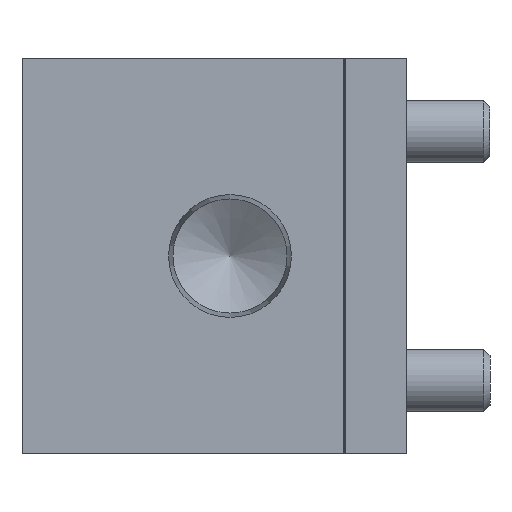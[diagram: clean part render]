
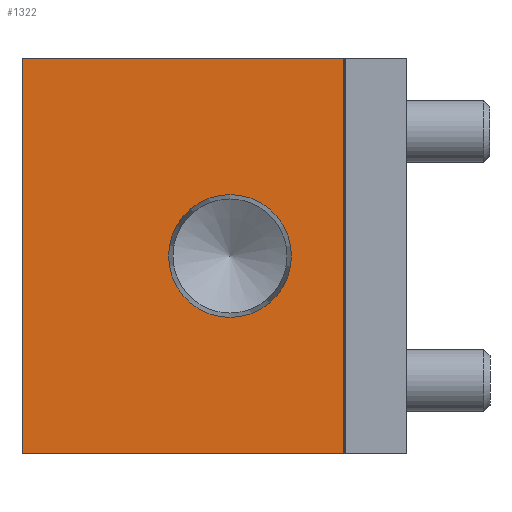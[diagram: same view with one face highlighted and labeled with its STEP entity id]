
A CAD part, left-side view. The second image highlights one B-rep face of the part: STEP entity #1322.
In plain terms, the highlighted planar face has unit normal (-1, 0, 0).
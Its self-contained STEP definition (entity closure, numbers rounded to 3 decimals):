
#1322 = ADVANCED_FACE( '', ( #2889, #2890 ), #2891, .F. );
#2889 = FACE_BOUND( '', #4786, .T. );
#2890 = FACE_OUTER_BOUND( '', #4787, .T. );
#2891 = PLANE( '', #4788 );
#4786 = EDGE_LOOP( '', ( #7861 ) );
#4787 = EDGE_LOOP( '', ( #7862, #7863, #7864, #7865 ) );
#4788 = AXIS2_PLACEMENT_3D( '', #7866, #7867, #7868 );
#7861 = ORIENTED_EDGE( '', *, *, #10039, .T. );
#7862 = ORIENTED_EDGE( '', *, *, #10657, .T. );
#7863 = ORIENTED_EDGE( '', *, *, #10984, .F. );
#7864 = ORIENTED_EDGE( '', *, *, #10590, .F. );
#7865 = ORIENTED_EDGE( '', *, *, #10985, .T. );
#7866 = CARTESIAN_POINT( '', ( 0., 37., 19. ) );
#7867 = DIRECTION( '', ( 1., 0., 0. ) );
#7868 = DIRECTION( '', ( 0., 0., -1. ) );
#10039 = EDGE_CURVE( '', #11698, #11698, #11699, .T. );
#10590 = EDGE_CURVE( '', #12588, #12589, #12590, .T. );
#10657 = EDGE_CURVE( '', #12690, #11595, #12691, .T. );
#10984 = EDGE_CURVE( '', #12589, #11595, #13145, .T. );
#10985 = EDGE_CURVE( '', #12588, #12690, #13146, .T. );
#11595 = VERTEX_POINT( '', #13850 );
#11698 = VERTEX_POINT( '', #13988 );
#11699 = CIRCLE( '', #13989, 5.91 );
#12588 = VERTEX_POINT( '', #15136 );
#12589 = VERTEX_POINT( '', #15137 );
#12590 = LINE( '', #15138, #15139 );
#12690 = VERTEX_POINT( '', #15272 );
#12691 = LINE( '', #15273, #15274 );
#13145 = LINE( '', #15886, #15887 );
#13146 = LINE( '', #15888, #15889 );
#13850 = CARTESIAN_POINT( '', ( 0., 6.1, -19. ) );
#13988 = CARTESIAN_POINT( '', ( 0., 17., -5.91 ) );
#13989 = AXIS2_PLACEMENT_3D( '', #16786, #16787, #16788 );
#15136 = CARTESIAN_POINT( '', ( 0., 37., 19. ) );
#15137 = CARTESIAN_POINT( '', ( 0., 6.1, 19. ) );
#15138 = CARTESIAN_POINT( '', ( 0., 37., 19. ) );
#15139 = VECTOR( '', #17479, 1000. );
#15272 = CARTESIAN_POINT( '', ( 0., 37., -19. ) );
#15273 = CARTESIAN_POINT( '', ( 0., 37., -19. ) );
#15274 = VECTOR( '', #17549, 1000. );
#15886 = CARTESIAN_POINT( '', ( 0., 6.1, 19. ) );
#15887 = VECTOR( '', #17897, 1000. );
#15888 = CARTESIAN_POINT( '', ( 0., 37., 19. ) );
#15889 = VECTOR( '', #17898, 1000. );
#16786 = CARTESIAN_POINT( '', ( 0., 17., 0. ) );
#16787 = DIRECTION( '', ( 1., 0., 0. ) );
#16788 = DIRECTION( '', ( 0., 0., -1. ) );
#17479 = DIRECTION( '', ( 0., -1., 0. ) );
#17549 = DIRECTION( '', ( 0., -1., 0. ) );
#17897 = DIRECTION( '', ( 0., 0., -1. ) );
#17898 = DIRECTION( '', ( 0., 0., -1. ) );
